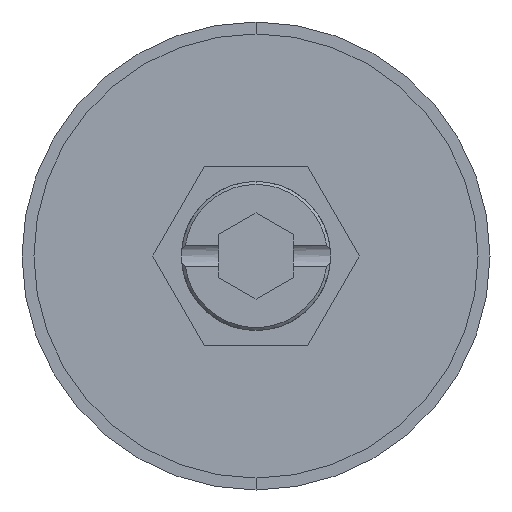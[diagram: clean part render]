
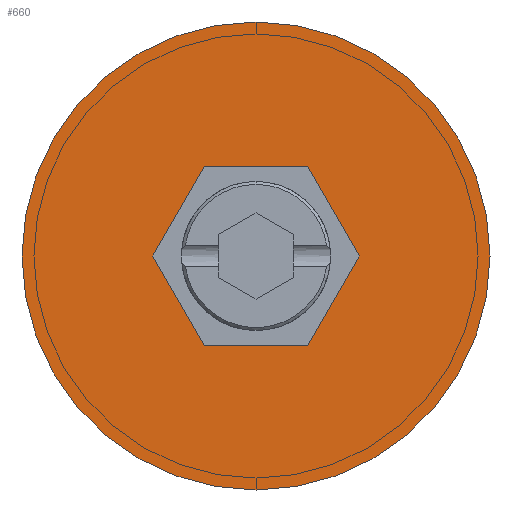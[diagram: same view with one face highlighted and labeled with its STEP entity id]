
A CAD part, front view. The second image highlights one B-rep face of the part: STEP entity #660.
In plain terms, the highlighted planar face has unit normal (0, -1, 0).
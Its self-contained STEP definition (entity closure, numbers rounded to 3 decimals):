
#21 = DIRECTION ( 'NONE',  ( 0.5, 0., -0.866 ) ) ;
#43 = EDGE_CURVE ( 'NONE', #1003, #731, #511, .T. ) ;
#108 = EDGE_CURVE ( 'NONE', #1200, #1181, #275, .T. ) ;
#156 = DIRECTION ( 'NONE',  ( 0.5, 0., 0.866 ) ) ;
#158 = CARTESIAN_POINT ( 'NONE',  ( -3.464, 0., -6. ) ) ;
#200 = LINE ( 'NONE', #2065, #1528 ) ;
#241 = DIRECTION ( 'NONE',  ( 0., -1., 0. ) ) ;
#247 = DIRECTION ( 'NONE',  ( 0., 0., -1. ) ) ;
#275 = CIRCLE ( 'NONE', #2025, 15.7 ) ;
#290 = CARTESIAN_POINT ( 'NONE',  ( -6.928, 0., 0. ) ) ;
#295 = LINE ( 'NONE', #885, #721 ) ;
#332 = EDGE_CURVE ( 'NONE', #731, #1761, #1517, .T. ) ;
#336 = CARTESIAN_POINT ( 'NONE',  ( 3.464, 0., 6. ) ) ;
#398 = CARTESIAN_POINT ( 'NONE',  ( 0., 0., 15.7 ) ) ;
#441 = VECTOR ( 'NONE', #749, 1000. ) ;
#449 = EDGE_LOOP ( 'NONE', ( #788, #1236, #2227, #826, #828, #593 ) ) ;
#505 = DIRECTION ( 'NONE',  ( -0.5, 0., 0.866 ) ) ;
#511 = LINE ( 'NONE', #659, #441 ) ;
#593 = ORIENTED_EDGE ( 'NONE', *, *, #332, .F. ) ;
#608 = VECTOR ( 'NONE', #156, 1000. ) ;
#659 = CARTESIAN_POINT ( 'NONE',  ( -3.464, 0., -6. ) ) ;
#660 = ADVANCED_FACE ( 'NONE', ( #1350, #1251 ), #2217, .T. ) ;
#718 = CIRCLE ( 'NONE', #1074, 15.7 ) ;
#721 = VECTOR ( 'NONE', #505, 1000. ) ;
#731 = VERTEX_POINT ( 'NONE', #1741 ) ;
#749 = DIRECTION ( 'NONE',  ( 1., 0., 0. ) ) ;
#788 = ORIENTED_EDGE ( 'NONE', *, *, #43, .F. ) ;
#803 = ORIENTED_EDGE ( 'NONE', *, *, #108, .T. ) ;
#806 = VERTEX_POINT ( 'NONE', #1628 ) ;
#819 = AXIS2_PLACEMENT_3D ( 'NONE', #1918, #2237, #2242 ) ;
#826 = ORIENTED_EDGE ( 'NONE', *, *, #2215, .F. ) ;
#828 = ORIENTED_EDGE ( 'NONE', *, *, #1383, .F. ) ;
#879 = VERTEX_POINT ( 'NONE', #336 ) ;
#885 = CARTESIAN_POINT ( 'NONE',  ( 6.928, 0., 0. ) ) ;
#950 = ORIENTED_EDGE ( 'NONE', *, *, #2123, .T. ) ;
#999 = EDGE_CURVE ( 'NONE', #1418, #1003, #2049, .T. ) ;
#1003 = VERTEX_POINT ( 'NONE', #158 ) ;
#1012 = LINE ( 'NONE', #1465, #1424 ) ;
#1074 = AXIS2_PLACEMENT_3D ( 'NONE', #1785, #241, #247 ) ;
#1081 = CARTESIAN_POINT ( 'NONE',  ( 3.464, 0., -6. ) ) ;
#1181 = VERTEX_POINT ( 'NONE', #398 ) ;
#1200 = VERTEX_POINT ( 'NONE', #1436 ) ;
#1211 = CARTESIAN_POINT ( 'NONE',  ( -6.928, 0., 0. ) ) ;
#1236 = ORIENTED_EDGE ( 'NONE', *, *, #999, .F. ) ;
#1251 = FACE_OUTER_BOUND ( 'NONE', #1884, .T. ) ;
#1350 = FACE_BOUND ( 'NONE', #449, .T. ) ;
#1383 = EDGE_CURVE ( 'NONE', #1761, #879, #295, .T. ) ;
#1409 = CARTESIAN_POINT ( 'NONE',  ( 0., 0., 0. ) ) ;
#1412 = DIRECTION ( 'NONE',  ( 0., -1., 0. ) ) ;
#1418 = VERTEX_POINT ( 'NONE', #1211 ) ;
#1423 = DIRECTION ( 'NONE',  ( 0., 0., -1. ) ) ;
#1424 = VECTOR ( 'NONE', #1458, 1000. ) ;
#1436 = CARTESIAN_POINT ( 'NONE',  ( 0., 0., -15.7 ) ) ;
#1458 = DIRECTION ( 'NONE',  ( -1., 0., 0. ) ) ;
#1465 = CARTESIAN_POINT ( 'NONE',  ( 3.464, 0., 6. ) ) ;
#1517 = LINE ( 'NONE', #1081, #608 ) ;
#1528 = VECTOR ( 'NONE', #1900, 1000. ) ;
#1577 = VECTOR ( 'NONE', #21, 1000. ) ;
#1628 = CARTESIAN_POINT ( 'NONE',  ( -3.464, 0., 6. ) ) ;
#1741 = CARTESIAN_POINT ( 'NONE',  ( 3.464, 0., -6. ) ) ;
#1761 = VERTEX_POINT ( 'NONE', #1984 ) ;
#1785 = CARTESIAN_POINT ( 'NONE',  ( 0., 0., 0. ) ) ;
#1884 = EDGE_LOOP ( 'NONE', ( #803, #950 ) ) ;
#1900 = DIRECTION ( 'NONE',  ( -0.5, 0., -0.866 ) ) ;
#1918 = CARTESIAN_POINT ( 'NONE',  ( 0., 0., 0. ) ) ;
#1984 = CARTESIAN_POINT ( 'NONE',  ( 6.928, 0., 0. ) ) ;
#2025 = AXIS2_PLACEMENT_3D ( 'NONE', #1409, #1412, #1423 ) ;
#2049 = LINE ( 'NONE', #290, #1577 ) ;
#2065 = CARTESIAN_POINT ( 'NONE',  ( -3.464, 0., 6. ) ) ;
#2112 = EDGE_CURVE ( 'NONE', #806, #1418, #200, .T. ) ;
#2123 = EDGE_CURVE ( 'NONE', #1181, #1200, #718, .T. ) ;
#2215 = EDGE_CURVE ( 'NONE', #879, #806, #1012, .T. ) ;
#2217 = PLANE ( 'NONE',  #819 ) ;
#2227 = ORIENTED_EDGE ( 'NONE', *, *, #2112, .F. ) ;
#2237 = DIRECTION ( 'NONE',  ( 0., -1., 0. ) ) ;
#2242 = DIRECTION ( 'NONE',  ( 0., 0., -1. ) ) ;
